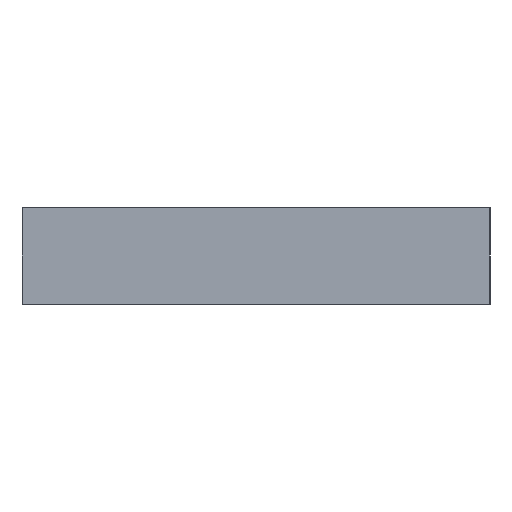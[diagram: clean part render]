
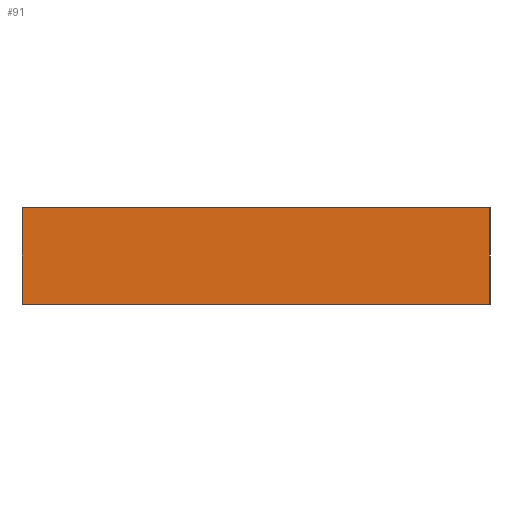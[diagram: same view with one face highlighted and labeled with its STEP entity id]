
A CAD part, left-side view. The second image highlights one B-rep face of the part: STEP entity #91.
In plain terms, the highlighted planar face has unit normal (-1, 0, 0).
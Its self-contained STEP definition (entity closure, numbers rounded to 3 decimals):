
#91 = ADVANCED_FACE( '', ( #176 ), #177, .F. );
#176 = FACE_OUTER_BOUND( '', #246, .T. );
#177 = PLANE( '', #247 );
#246 = EDGE_LOOP( '', ( #362, #363, #364, #365 ) );
#247 = AXIS2_PLACEMENT_3D( '', #366, #367, #368 );
#362 = ORIENTED_EDGE( '', *, *, #409, .T. );
#363 = ORIENTED_EDGE( '', *, *, #401, .F. );
#364 = ORIENTED_EDGE( '', *, *, #379, .F. );
#365 = ORIENTED_EDGE( '', *, *, #415, .T. );
#366 = CARTESIAN_POINT( '', ( -6., 0., 3.5 ) );
#367 = DIRECTION( '', ( 1., 0., 0. ) );
#368 = DIRECTION( '', ( 0., 0., -1. ) );
#379 = EDGE_CURVE( '', #425, #426, #427, .T. );
#401 = EDGE_CURVE( '', #426, #459, #463, .T. );
#409 = EDGE_CURVE( '', #473, #459, #474, .T. );
#415 = EDGE_CURVE( '', #425, #473, #482, .T. );
#425 = VERTEX_POINT( '', #493 );
#426 = VERTEX_POINT( '', #494 );
#427 = LINE( '', #495, #496 );
#459 = VERTEX_POINT( '', #539 );
#463 = LINE( '', #545, #546 );
#473 = VERTEX_POINT( '', #556 );
#474 = LINE( '', #557, #558 );
#482 = LINE( '', #568, #569 );
#493 = CARTESIAN_POINT( '', ( -6., 0., 3.5 ) );
#494 = CARTESIAN_POINT( '', ( -6., -34., 3.5 ) );
#495 = CARTESIAN_POINT( '', ( -6., 0., 3.5 ) );
#496 = VECTOR( '', #580, 1000. );
#539 = CARTESIAN_POINT( '', ( -6., -34., -3.5 ) );
#545 = CARTESIAN_POINT( '', ( -6., -34., 3.5 ) );
#546 = VECTOR( '', #606, 1000. );
#556 = CARTESIAN_POINT( '', ( -6., 0., -3.5 ) );
#557 = CARTESIAN_POINT( '', ( -6., 0., -3.5 ) );
#558 = VECTOR( '', #616, 1000. );
#568 = CARTESIAN_POINT( '', ( -6., 0., 3.5 ) );
#569 = VECTOR( '', #625, 1000. );
#580 = DIRECTION( '', ( 0., -1., 0. ) );
#606 = DIRECTION( '', ( 0., 0., -1. ) );
#616 = DIRECTION( '', ( 0., -1., 0. ) );
#625 = DIRECTION( '', ( 0., 0., -1. ) );
